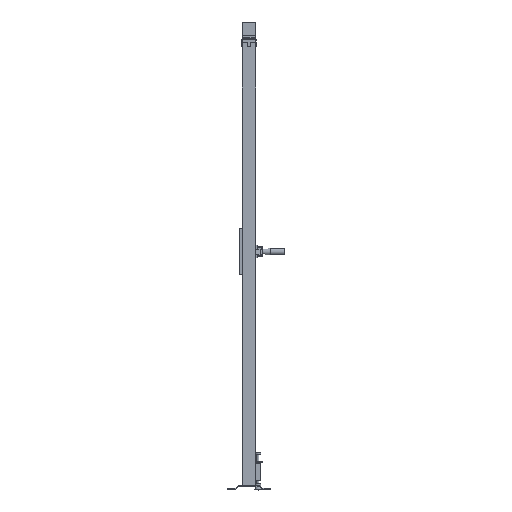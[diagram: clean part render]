
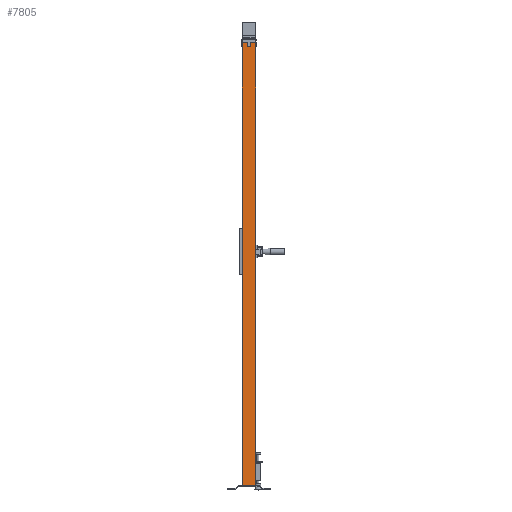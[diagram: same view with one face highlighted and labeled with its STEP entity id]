
A CAD part, left-side view. The second image highlights one B-rep face of the part: STEP entity #7805.
In plain terms, the highlighted planar face has unit normal (-1, 0, 0).
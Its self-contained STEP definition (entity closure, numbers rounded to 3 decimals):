
#872=FACE_OUTER_BOUND('',#1268,.T.);
#1268=EDGE_LOOP('',(#5826,#5827,#5828,#5829));
#1828=LINE('',#11291,#2830);
#1832=LINE('',#11300,#2834);
#1834=LINE('',#11303,#2836);
#1836=LINE('',#11306,#2838);
#2830=VECTOR('',#9110,1.);
#2834=VECTOR('',#9116,1.);
#2836=VECTOR('',#9120,1.);
#2838=VECTOR('',#9124,1.);
#3766=VERTEX_POINT('',#11288);
#3767=VERTEX_POINT('',#11290);
#3770=VERTEX_POINT('',#11297);
#3771=VERTEX_POINT('',#11299);
#4565=EDGE_CURVE('',#3766,#3767,#1828,.T.);
#4569=EDGE_CURVE('',#3770,#3771,#1832,.T.);
#4571=EDGE_CURVE('',#3767,#3770,#1834,.T.);
#4573=EDGE_CURVE('',#3766,#3771,#1836,.T.);
#5826=ORIENTED_EDGE('',*,*,#4573,.T.);
#5827=ORIENTED_EDGE('',*,*,#4569,.F.);
#5828=ORIENTED_EDGE('',*,*,#4571,.F.);
#5829=ORIENTED_EDGE('',*,*,#4565,.F.);
#7456=PLANE('',#8255);
#7805=ADVANCED_FACE('',(#872),#7456,.F.);
#8255=AXIS2_PLACEMENT_3D('',#11305,#9122,#9123);
#9110=DIRECTION('',(0.,-1.,0.));
#9116=DIRECTION('',(0.,1.,0.));
#9120=DIRECTION('',(0.,0.,-1.));
#9122=DIRECTION('center_axis',(1.,0.,0.));
#9123=DIRECTION('ref_axis',(0.,0.,-1.));
#9124=DIRECTION('',(0.,0.,-1.));
#11288=CARTESIAN_POINT('',(-30.,30.,2020.));
#11290=CARTESIAN_POINT('',(-30.,-30.,2020.));
#11291=CARTESIAN_POINT('',(-30.,0.,2020.));
#11297=CARTESIAN_POINT('',(-30.,-30.,20.));
#11299=CARTESIAN_POINT('',(-30.,30.,20.));
#11300=CARTESIAN_POINT('',(-30.,0.,20.));
#11303=CARTESIAN_POINT('',(-30.,-30.,1020.));
#11305=CARTESIAN_POINT('Origin',(-30.,0.,
1020.));
#11306=CARTESIAN_POINT('',(-30.,30.,1020.));
